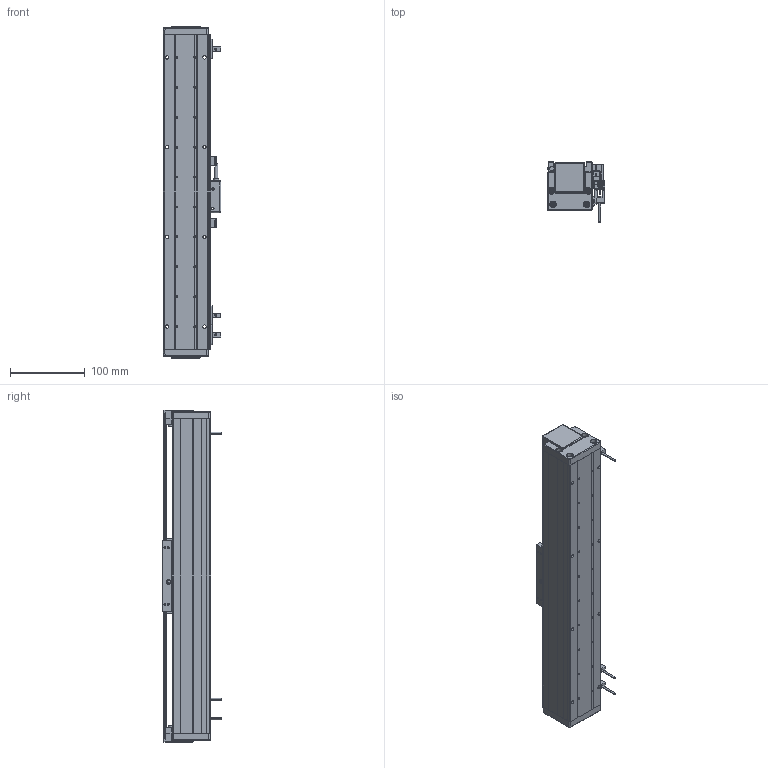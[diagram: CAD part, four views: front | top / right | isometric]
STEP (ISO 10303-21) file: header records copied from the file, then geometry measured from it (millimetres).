
FILE_DESCRIPTION (( 'STEP AP203' ), '1' );
FILE_NAME ('DA-A60-B1-T280-C010-0.2 眻盄萇儂.STEP', '2025-08-13T01:53:07', ( '' ), ( '' ), 'SwSTEP 2.0', 'SolidWorks 2019', '' );
FILE_SCHEMA (( 'CONFIG_CONTROL_DESIGN' ));
Length unit declared in the file: millimetre
Products named in the file (21): 复件 DA60-XJ-00 橡胶挡块^DA-A60-B1-T-C010-0.2-N 直线电机; 复件 DA60-DG-H-N-00 端盖^DA-A60-B1-T-C010-0.2-N 直线电机; AU60-L 菁釱絳寢; 葩璃 DMT-010 1米m 0.2M^DA-A60-B1-T-C010-0.2-N 眻盄萇儂; 复件 DA60-B1-GT-00 滑块钢轨^DA60-YT-B1-HT-B-01 一体化滑动台板; DA60-T-002-00  裔啣; AU60-V 幗紩賑怢; 复件 DA60-GT-T-00 底座钢轨^AU60-L 底座导轨; 复件 DA60-DMT-DTJ-00 读数头支架^DA-A60-B1-T-C010-0.2-N 直线电机; IU-AU60-L-00 菁釱(420); DA60-YT-B1-HT-B-01 珨极趙賑雄怢啣; 复件 六角薄螺母 M3^DA-A60-B1-T-C010-0.2-N 直线电机(GB_FASTENER_NUT_STNAB M3-C); 葩璃 PM-T45^DA-A60-B1-T-C010-0.2-N 眻盄萇儂; 复件 XD-U-02  磁栅尺^DA-A60-B1-T-C010-0.2-N 直线电机; 葩璃 AKM01-W030-TRL^DA-A60-B1-T-C010-0.2-N 眻盄萇儂; 复件 BAKM01-W030-C1-TP-0.2 直线电机动子^DA-A60-B1-T-C010-0.2-N 直线电机; DA-A60-B1-T280-C010-0.2 眻盄萇儂; 葩璃 DA60-HK-DP-01 結え^AU60-V 幗紩賑怢; 复件 DA-A60-GYP-DMT-00 光电感应片^DA-A60-B1-T-C010-0.2-N 直线电机(默认); DA60-B1-HT-B-03 賑雄怢啣; 复件 纯铜油杯 6x6mm^AU60-V 滚珠滑台
Assembly tree (33 placements, depth 4):
  DA-A60-B1-T280-C010-0.2 眻盄萇儂
    AU60-L 菁釱絳寢
      IU-AU60-L-00 菁釱(420)
      复件 DA60-GT-T-00 底座钢轨^AU60-L 底座导轨  x2
    AU60-V 幗紩賑怢
      DA60-YT-B1-HT-B-01 珨极趙賑雄怢啣
        DA60-B1-HT-B-03 賑雄怢啣
        复件 DA60-B1-GT-00 滑块钢轨^DA60-YT-B1-HT-B-01 一体化滑动台板  x2
      葩璃 DA60-HK-DP-01 結え^AU60-V 幗紩賑怢  x2
      复件 纯铜油杯 6x6mm^AU60-V 滚珠滑台
    复件 DA-A60-GYP-DMT-00 光电感应片^DA-A60-B1-T-C010-0.2-N 直线电机(默认)  x2
    复件 DA60-DMT-DTJ-00 读数头支架^DA-A60-B1-T-C010-0.2-N 直线电机
    葩璃 DMT-010 1米m 0.2M^DA-A60-B1-T-C010-0.2-N 眻盄萇儂
    复件 BAKM01-W030-C1-TP-0.2 直线电机动子^DA-A60-B1-T-C010-0.2-N 直线电机
    复件 DA60-XJ-00 橡胶挡块^DA-A60-B1-T-C010-0.2-N 直线电机  x2
    复件 DA60-DG-H-N-00 端盖^DA-A60-B1-T-C010-0.2-N 直线电机  x2
    DA60-T-002-00  裔啣
    葩璃 AKM01-W030-TRL^DA-A60-B1-T-C010-0.2-N 眻盄萇儂
    葩璃 PM-T45^DA-A60-B1-T-C010-0.2-N 眻盄萇儂  x3
    复件 XD-U-02  磁栅尺^DA-A60-B1-T-C010-0.2-N 直线电机
    复件 六角薄螺母 M3^DA-A60-B1-T-C010-0.2-N 直线电机(GB_FASTENER_NUT_STNAB M3-C)  x6
Bounding box: 76.95 x 80 x 444 mm (x, y, z)
Volume: 984050.8 mm3; surface area: 364755.3 mm2
Topology: 35 solids, 37 shells, 2693 faces, 6768 edges, 4065 vertices
Faces by surface type: cylinder 980, plane 879, bspline 577, cone 248, torus 8, sphere 1
Entity records: 64161 total; most frequent: CARTESIAN_POINT 21008, ORIENTED_EDGE 8792, DIRECTION 8081, EDGE_CURVE 4396, AXIS2_PLACEMENT_3D 2920, VERTEX_POINT 2736, LINE 2241, VECTOR 2241
